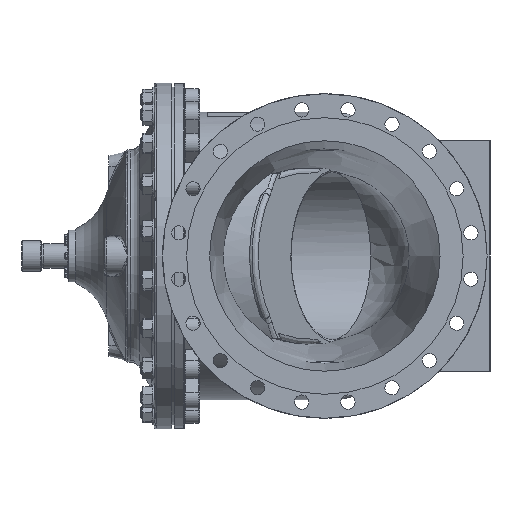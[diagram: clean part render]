
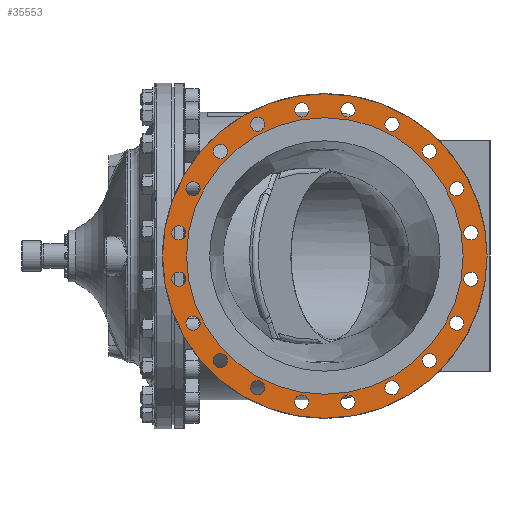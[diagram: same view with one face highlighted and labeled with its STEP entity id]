
A CAD part, left-side view. The second image highlights one B-rep face of the part: STEP entity #35553.
In plain terms, the highlighted planar face has unit normal (-1, 0, 0).
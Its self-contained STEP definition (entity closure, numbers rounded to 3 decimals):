
#5491=FACE_BOUND('',#8324,.T.);
#5492=FACE_BOUND('',#8325,.T.);
#5493=FACE_BOUND('',#8326,.T.);
#5494=FACE_BOUND('',#8327,.T.);
#5495=FACE_BOUND('',#8328,.T.);
#5496=FACE_BOUND('',#8329,.T.);
#5497=FACE_BOUND('',#8330,.T.);
#5498=FACE_BOUND('',#8331,.T.);
#5499=FACE_BOUND('',#8332,.T.);
#5500=FACE_BOUND('',#8333,.T.);
#5501=FACE_BOUND('',#8334,.T.);
#5502=FACE_BOUND('',#8335,.T.);
#5503=FACE_BOUND('',#8336,.T.);
#5504=FACE_BOUND('',#8337,.T.);
#5505=FACE_BOUND('',#8338,.T.);
#5506=FACE_BOUND('',#8339,.T.);
#5507=FACE_BOUND('',#8340,.T.);
#5508=FACE_BOUND('',#8341,.T.);
#5509=FACE_BOUND('',#8342,.T.);
#5510=FACE_BOUND('',#8343,.T.);
#5511=FACE_BOUND('',#8344,.T.);
#6021=FACE_OUTER_BOUND('',#8323,.T.);
#8323=EDGE_LOOP('',(#24616));
#8324=EDGE_LOOP('',(#24617));
#8325=EDGE_LOOP('',(#24618));
#8326=EDGE_LOOP('',(#24619));
#8327=EDGE_LOOP('',(#24620));
#8328=EDGE_LOOP('',(#24621));
#8329=EDGE_LOOP('',(#24622));
#8330=EDGE_LOOP('',(#24623));
#8331=EDGE_LOOP('',(#24624));
#8332=EDGE_LOOP('',(#24625));
#8333=EDGE_LOOP('',(#24626));
#8334=EDGE_LOOP('',(#24627));
#8335=EDGE_LOOP('',(#24628));
#8336=EDGE_LOOP('',(#24629));
#8337=EDGE_LOOP('',(#24630));
#8338=EDGE_LOOP('',(#24631));
#8339=EDGE_LOOP('',(#24632));
#8340=EDGE_LOOP('',(#24633));
#8341=EDGE_LOOP('',(#24634));
#8342=EDGE_LOOP('',(#24635));
#8343=EDGE_LOOP('',(#24636));
#8344=EDGE_LOOP('',(#24637));
#10728=CIRCLE('',#38137,18.5);
#10729=CIRCLE('',#38139,18.5);
#10730=CIRCLE('',#38141,18.5);
#10731=CIRCLE('',#38143,18.5);
#10732=CIRCLE('',#38145,18.5);
#10733=CIRCLE('',#38147,18.5);
#10734=CIRCLE('',#38149,18.5);
#10735=CIRCLE('',#38151,18.5);
#10736=CIRCLE('',#38153,18.5);
#10737=CIRCLE('',#38155,18.5);
#10738=CIRCLE('',#38157,18.5);
#10739=CIRCLE('',#38159,18.5);
#10740=CIRCLE('',#38161,18.5);
#10741=CIRCLE('',#38163,18.5);
#10742=CIRCLE('',#38165,18.5);
#10743=CIRCLE('',#38167,18.5);
#10744=CIRCLE('',#38169,18.5);
#10745=CIRCLE('',#38171,18.5);
#10746=CIRCLE('',#38173,18.5);
#10747=CIRCLE('',#38175,18.5);
#10748=CIRCLE('',#38185,422.5);
#10749=CIRCLE('',#38187,360.);
#13736=VERTEX_POINT('',#61169);
#13737=VERTEX_POINT('',#61173);
#13738=VERTEX_POINT('',#61177);
#13739=VERTEX_POINT('',#61181);
#13740=VERTEX_POINT('',#61185);
#13741=VERTEX_POINT('',#61189);
#13742=VERTEX_POINT('',#61193);
#13743=VERTEX_POINT('',#61197);
#13744=VERTEX_POINT('',#61201);
#13745=VERTEX_POINT('',#61205);
#13746=VERTEX_POINT('',#61209);
#13747=VERTEX_POINT('',#61213);
#13748=VERTEX_POINT('',#61217);
#13749=VERTEX_POINT('',#61221);
#13750=VERTEX_POINT('',#61225);
#13751=VERTEX_POINT('',#61229);
#13752=VERTEX_POINT('',#61233);
#13753=VERTEX_POINT('',#61237);
#13754=VERTEX_POINT('',#61241);
#13755=VERTEX_POINT('',#61245);
#13770=VERTEX_POINT('',#61717);
#13771=VERTEX_POINT('',#61721);
#17806=EDGE_CURVE('',#13736,#13736,#10728,.T.);
#17808=EDGE_CURVE('',#13737,#13737,#10729,.T.);
#17810=EDGE_CURVE('',#13738,#13738,#10730,.T.);
#17812=EDGE_CURVE('',#13739,#13739,#10731,.T.);
#17814=EDGE_CURVE('',#13740,#13740,#10732,.T.);
#17816=EDGE_CURVE('',#13741,#13741,#10733,.T.);
#17818=EDGE_CURVE('',#13742,#13742,#10734,.T.);
#17820=EDGE_CURVE('',#13743,#13743,#10735,.T.);
#17822=EDGE_CURVE('',#13744,#13744,#10736,.T.);
#17824=EDGE_CURVE('',#13745,#13745,#10737,.T.);
#17826=EDGE_CURVE('',#13746,#13746,#10738,.T.);
#17828=EDGE_CURVE('',#13747,#13747,#10739,.T.);
#17830=EDGE_CURVE('',#13748,#13748,#10740,.T.);
#17832=EDGE_CURVE('',#13749,#13749,#10741,.T.);
#17834=EDGE_CURVE('',#13750,#13750,#10742,.T.);
#17836=EDGE_CURVE('',#13751,#13751,#10743,.T.);
#17838=EDGE_CURVE('',#13752,#13752,#10744,.T.);
#17840=EDGE_CURVE('',#13753,#13753,#10745,.T.);
#17842=EDGE_CURVE('',#13754,#13754,#10746,.T.);
#17844=EDGE_CURVE('',#13755,#13755,#10747,.T.);
#17864=EDGE_CURVE('',#13770,#13770,#10748,.T.);
#17866=EDGE_CURVE('',#13771,#13771,#10749,.T.);
#24616=ORIENTED_EDGE('',*,*,#17864,.F.);
#24617=ORIENTED_EDGE('',*,*,#17806,.T.);
#24618=ORIENTED_EDGE('',*,*,#17808,.T.);
#24619=ORIENTED_EDGE('',*,*,#17810,.T.);
#24620=ORIENTED_EDGE('',*,*,#17812,.T.);
#24621=ORIENTED_EDGE('',*,*,#17814,.T.);
#24622=ORIENTED_EDGE('',*,*,#17816,.T.);
#24623=ORIENTED_EDGE('',*,*,#17818,.T.);
#24624=ORIENTED_EDGE('',*,*,#17820,.T.);
#24625=ORIENTED_EDGE('',*,*,#17822,.T.);
#24626=ORIENTED_EDGE('',*,*,#17824,.T.);
#24627=ORIENTED_EDGE('',*,*,#17826,.T.);
#24628=ORIENTED_EDGE('',*,*,#17828,.T.);
#24629=ORIENTED_EDGE('',*,*,#17830,.T.);
#24630=ORIENTED_EDGE('',*,*,#17832,.T.);
#24631=ORIENTED_EDGE('',*,*,#17834,.T.);
#24632=ORIENTED_EDGE('',*,*,#17836,.T.);
#24633=ORIENTED_EDGE('',*,*,#17838,.T.);
#24634=ORIENTED_EDGE('',*,*,#17840,.T.);
#24635=ORIENTED_EDGE('',*,*,#17842,.T.);
#24636=ORIENTED_EDGE('',*,*,#17844,.T.);
#24637=ORIENTED_EDGE('',*,*,#17866,.T.);
#34507=PLANE('',#38186);
#35553=ADVANCED_FACE('',(#6021,#5491,#5492,#5493,#5494,#5495,#5496,#5497,
#5498,#5499,#5500,#5501,#5502,#5503,#5504,#5505,#5506,#5507,#5508,#5509,
#5510,#5511),#34507,.F.);
#38137=AXIS2_PLACEMENT_3D('',#61170,#44098,#44099);
#38139=AXIS2_PLACEMENT_3D('',#61174,#44103,#44104);
#38141=AXIS2_PLACEMENT_3D('',#61178,#44108,#44109);
#38143=AXIS2_PLACEMENT_3D('',#61182,#44113,#44114);
#38145=AXIS2_PLACEMENT_3D('',#61186,#44118,#44119);
#38147=AXIS2_PLACEMENT_3D('',#61190,#44123,#44124);
#38149=AXIS2_PLACEMENT_3D('',#61194,#44128,#44129);
#38151=AXIS2_PLACEMENT_3D('',#61198,#44133,#44134);
#38153=AXIS2_PLACEMENT_3D('',#61202,#44138,#44139);
#38155=AXIS2_PLACEMENT_3D('',#61206,#44143,#44144);
#38157=AXIS2_PLACEMENT_3D('',#61210,#44148,#44149);
#38159=AXIS2_PLACEMENT_3D('',#61214,#44153,#44154);
#38161=AXIS2_PLACEMENT_3D('',#61218,#44158,#44159);
#38163=AXIS2_PLACEMENT_3D('',#61222,#44163,#44164);
#38165=AXIS2_PLACEMENT_3D('',#61226,#44168,#44169);
#38167=AXIS2_PLACEMENT_3D('',#61230,#44173,#44174);
#38169=AXIS2_PLACEMENT_3D('',#61234,#44178,#44179);
#38171=AXIS2_PLACEMENT_3D('',#61238,#44183,#44184);
#38173=AXIS2_PLACEMENT_3D('',#61242,#44188,#44189);
#38175=AXIS2_PLACEMENT_3D('',#61246,#44193,#44194);
#38185=AXIS2_PLACEMENT_3D('',#61718,#44216,#44217);
#38186=AXIS2_PLACEMENT_3D('',#61720,#44219,#44220);
#38187=AXIS2_PLACEMENT_3D('',#61722,#44221,#44222);
#44098=DIRECTION('center_axis',(1.,0.,0.));
#44099=DIRECTION('ref_axis',(0.,0.309,0.951));
#44103=DIRECTION('center_axis',(1.,0.,0.));
#44104=DIRECTION('ref_axis',(0.,0.588,0.809));
#44108=DIRECTION('center_axis',(1.,0.,0.));
#44109=DIRECTION('ref_axis',(0.,0.809,0.588));
#44113=DIRECTION('center_axis',(1.,0.,0.));
#44114=DIRECTION('ref_axis',(0.,0.951,0.309));
#44118=DIRECTION('center_axis',(1.,0.,0.));
#44119=DIRECTION('ref_axis',(0.,1.,0.));
#44123=DIRECTION('center_axis',(1.,0.,0.));
#44124=DIRECTION('ref_axis',(0.,0.951,-0.309));
#44128=DIRECTION('center_axis',(1.,0.,0.));
#44129=DIRECTION('ref_axis',(0.,0.809,-0.588));
#44133=DIRECTION('center_axis',(1.,0.,0.));
#44134=DIRECTION('ref_axis',(0.,0.588,-0.809));
#44138=DIRECTION('center_axis',(1.,0.,0.));
#44139=DIRECTION('ref_axis',(0.,0.309,-0.951));
#44143=DIRECTION('center_axis',(1.,0.,0.));
#44144=DIRECTION('ref_axis',(0.,0.,-1.));
#44148=DIRECTION('center_axis',(1.,0.,0.));
#44149=DIRECTION('ref_axis',(0.,-0.309,-0.951));
#44153=DIRECTION('center_axis',(1.,0.,0.));
#44154=DIRECTION('ref_axis',(0.,-0.588,-0.809));
#44158=DIRECTION('center_axis',(1.,0.,0.));
#44159=DIRECTION('ref_axis',(0.,-0.809,-0.588));
#44163=DIRECTION('center_axis',(1.,0.,0.));
#44164=DIRECTION('ref_axis',(0.,-0.951,-0.309));
#44168=DIRECTION('center_axis',(1.,0.,0.));
#44169=DIRECTION('ref_axis',(0.,-1.,0.));
#44173=DIRECTION('center_axis',(1.,0.,0.));
#44174=DIRECTION('ref_axis',(0.,-0.951,0.309));
#44178=DIRECTION('center_axis',(1.,0.,0.));
#44179=DIRECTION('ref_axis',(0.,-0.809,0.588));
#44183=DIRECTION('center_axis',(1.,0.,0.));
#44184=DIRECTION('ref_axis',(0.,-0.588,0.809));
#44188=DIRECTION('center_axis',(1.,0.,0.));
#44189=DIRECTION('ref_axis',(0.,-0.309,0.951));
#44193=DIRECTION('center_axis',(1.,0.,0.));
#44194=DIRECTION('ref_axis',(0.,0.,1.));
#44216=DIRECTION('center_axis',(1.,0.,0.));
#44217=DIRECTION('ref_axis',(0.,1.,0.));
#44219=DIRECTION('center_axis',(1.,0.,0.));
#44220=DIRECTION('ref_axis',(0.,0.,-1.));
#44221=DIRECTION('center_axis',(1.,0.,0.));
#44222=DIRECTION('ref_axis',(0.,1.,0.));
#61169=CARTESIAN_POINT('',(-720.,-180.503,-360.632));
#61170=CARTESIAN_POINT('Origin',(-720.,-174.786,-343.038));
#61173=CARTESIAN_POINT('',(-720.,-283.11,-287.203));
#61174=CARTESIAN_POINT('Origin',(-720.,-272.236,-272.236));
#61177=CARTESIAN_POINT('',(-720.,-358.004,-185.66));
#61178=CARTESIAN_POINT('Origin',(-720.,-343.038,-174.786));
#61181=CARTESIAN_POINT('',(-720.,-397.855,-65.944));
#61182=CARTESIAN_POINT('Origin',(-720.,-380.26,-60.227));
#61185=CARTESIAN_POINT('',(-720.,-398.76,60.227));
#61186=CARTESIAN_POINT('Origin',(-720.,-380.26,60.227));
#61189=CARTESIAN_POINT('',(-720.,-360.632,180.503));
#61190=CARTESIAN_POINT('Origin',(-720.,-343.038,174.786));
#61193=CARTESIAN_POINT('',(-720.,-287.203,283.11));
#61194=CARTESIAN_POINT('Origin',(-720.,-272.236,272.236));
#61197=CARTESIAN_POINT('',(-720.,-185.66,358.004));
#61198=CARTESIAN_POINT('Origin',(-720.,-174.786,343.038));
#61201=CARTESIAN_POINT('',(-720.,-65.944,397.855));
#61202=CARTESIAN_POINT('Origin',(-720.,-60.227,380.26));
#61205=CARTESIAN_POINT('',(-720.,60.227,398.76));
#61206=CARTESIAN_POINT('Origin',(-720.,60.227,380.26));
#61209=CARTESIAN_POINT('',(-720.,180.503,360.632));
#61210=CARTESIAN_POINT('Origin',(-720.,174.786,343.038));
#61213=CARTESIAN_POINT('',(-720.,283.11,287.203));
#61214=CARTESIAN_POINT('Origin',(-720.,272.236,272.236));
#61217=CARTESIAN_POINT('',(-720.,358.004,185.66));
#61218=CARTESIAN_POINT('Origin',(-720.,343.038,174.786));
#61221=CARTESIAN_POINT('',(-720.,397.855,65.944));
#61222=CARTESIAN_POINT('Origin',(-720.,380.26,60.227));
#61225=CARTESIAN_POINT('',(-720.,398.76,-60.227));
#61226=CARTESIAN_POINT('Origin',(-720.,380.26,-60.227));
#61229=CARTESIAN_POINT('',(-720.,360.632,-180.503));
#61230=CARTESIAN_POINT('Origin',(-720.,343.038,-174.786));
#61233=CARTESIAN_POINT('',(-720.,287.203,-283.11));
#61234=CARTESIAN_POINT('Origin',(-720.,272.236,-272.236));
#61237=CARTESIAN_POINT('',(-720.,185.66,-358.004));
#61238=CARTESIAN_POINT('Origin',(-720.,174.786,-343.038));
#61241=CARTESIAN_POINT('',(-720.,65.944,-397.855));
#61242=CARTESIAN_POINT('Origin',(-720.,60.227,-380.26));
#61245=CARTESIAN_POINT('',(-720.,-60.227,-398.76));
#61246=CARTESIAN_POINT('Origin',(-720.,-60.227,-380.26));
#61717=CARTESIAN_POINT('',(-720.,-422.5,0.));
#61718=CARTESIAN_POINT('Origin',(-720.,0.,0.));
#61720=CARTESIAN_POINT('Origin',(-720.,391.25,0.));
#61721=CARTESIAN_POINT('',(-720.,-360.,0.));
#61722=CARTESIAN_POINT('Origin',(-720.,0.,0.));
